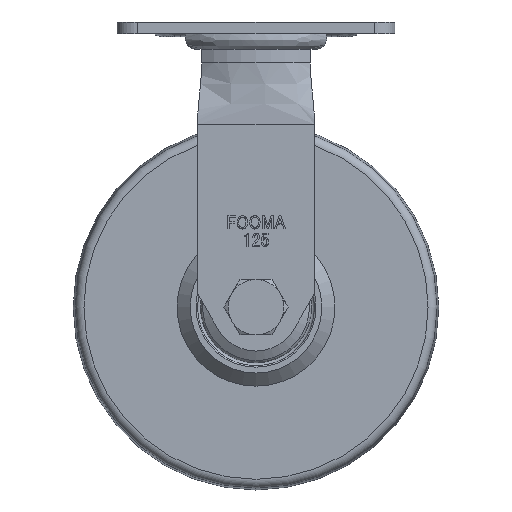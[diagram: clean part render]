
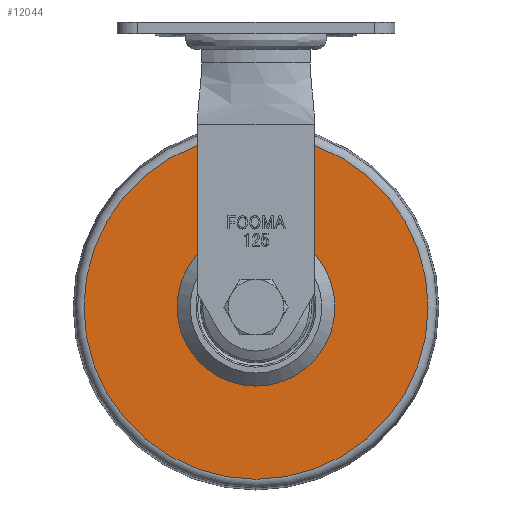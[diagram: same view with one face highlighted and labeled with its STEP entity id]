
A CAD part, front view. The second image highlights one B-rep face of the part: STEP entity #12044.
In plain terms, the highlighted planar face has unit normal (0, -1, 0).
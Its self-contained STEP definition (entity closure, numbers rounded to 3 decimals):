
#3420=PLANE('',#12758);
#3745=FACE_BOUND('',#4543,.T.);
#3850=FACE_OUTER_BOUND('',#4542,.T.);
#4542=EDGE_LOOP('',(#8533));
#4543=EDGE_LOOP('',(#8534));
#5315=CIRCLE('',#12741,27.);
#5324=CIRCLE('',#12757,58.832);
#5608=VERTEX_POINT('',#16093);
#5617=VERTEX_POINT('',#16118);
#6769=EDGE_CURVE('',#5608,#5608,#5315,.T.);
#6778=EDGE_CURVE('',#5617,#5617,#5324,.T.);
#8533=ORIENTED_EDGE('',*,*,#6778,.T.);
#8534=ORIENTED_EDGE('',*,*,#6769,.F.);
#12044=ADVANCED_FACE('',(#3850,#3745),#3420,.T.);
#12741=AXIS2_PLACEMENT_3D('',#16094,#13550,#13551);
#12757=AXIS2_PLACEMENT_3D('',#16119,#13582,#13583);
#12758=AXIS2_PLACEMENT_3D('',#16120,#13584,#13585);
#13550=DIRECTION('center_axis',(0.,-1.,0.));
#13551=DIRECTION('ref_axis',(1.,0.,0.));
#13582=DIRECTION('center_axis',(0.,-1.,0.));
#13583=DIRECTION('ref_axis',(1.,0.,0.));
#13584=DIRECTION('center_axis',(0.,-1.,0.));
#13585=DIRECTION('ref_axis',(0.,0.,-1.));
#16093=CARTESIAN_POINT('',(0.,-17.5,-70.5));
#16094=CARTESIAN_POINT('Origin',(0.,-17.5,
-97.5));
#16118=CARTESIAN_POINT('',(0.,-17.5,-38.668));
#16119=CARTESIAN_POINT('Origin',(0.,-17.5,
-97.5));
#16120=CARTESIAN_POINT('Origin',(0.,-17.5,
-70.5));
